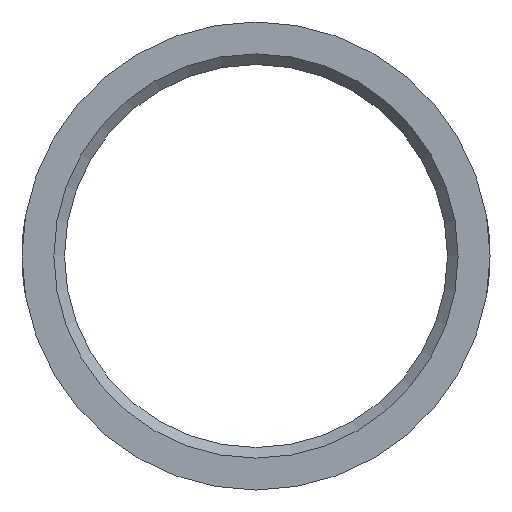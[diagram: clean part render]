
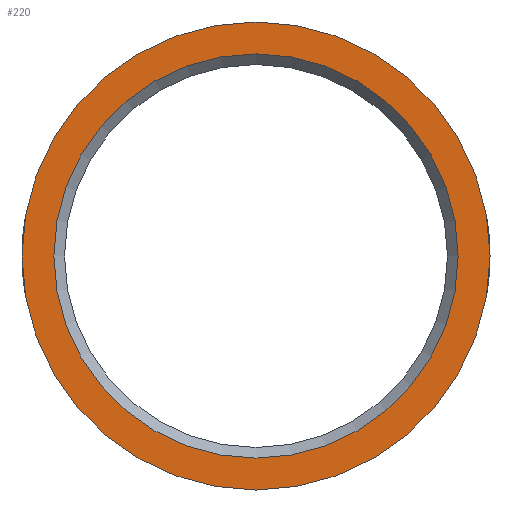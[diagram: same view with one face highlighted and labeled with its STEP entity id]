
A CAD part, front view. The second image highlights one B-rep face of the part: STEP entity #220.
In plain terms, the highlighted planar face has unit normal (0, -1, 0).
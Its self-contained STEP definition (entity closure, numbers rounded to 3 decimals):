
#14=PLANE('',#254);
#17=FACE_BOUND('',#49,.T.);
#37=FACE_OUTER_BOUND('',#48,.T.);
#48=EDGE_LOOP('',(#158));
#49=EDGE_LOOP('',(#159));
#79=CIRCLE('',#249,9.5);
#83=CIRCLE('',#255,11.);
#90=VERTEX_POINT('',#325);
#99=VERTEX_POINT('',#417);
#111=EDGE_CURVE('',#90,#90,#79,.T.);
#123=EDGE_CURVE('',#99,#99,#83,.T.);
#158=ORIENTED_EDGE('',*,*,#123,.T.);
#159=ORIENTED_EDGE('',*,*,#111,.F.);
#220=ADVANCED_FACE('',(#37,#17),#14,.F.);
#249=AXIS2_PLACEMENT_3D('',#326,#273,#274);
#254=AXIS2_PLACEMENT_3D('',#416,#286,#287);
#255=AXIS2_PLACEMENT_3D('',#418,#288,#289);
#273=DIRECTION('center_axis',(0.,-1.,0.));
#274=DIRECTION('ref_axis',(1.,0.,0.));
#286=DIRECTION('center_axis',(0.,1.,0.));
#287=DIRECTION('ref_axis',(0.,0.,1.));
#288=DIRECTION('center_axis',(0.,-1.,0.));
#289=DIRECTION('ref_axis',(1.,0.,0.));
#325=CARTESIAN_POINT('',(-9.5,0.,0.));
#326=CARTESIAN_POINT('Origin',(0.,0.,0.));
#416=CARTESIAN_POINT('Origin',(0.,0.,0.));
#417=CARTESIAN_POINT('',(-11.,0.,0.));
#418=CARTESIAN_POINT('Origin',(0.,0.,0.));
